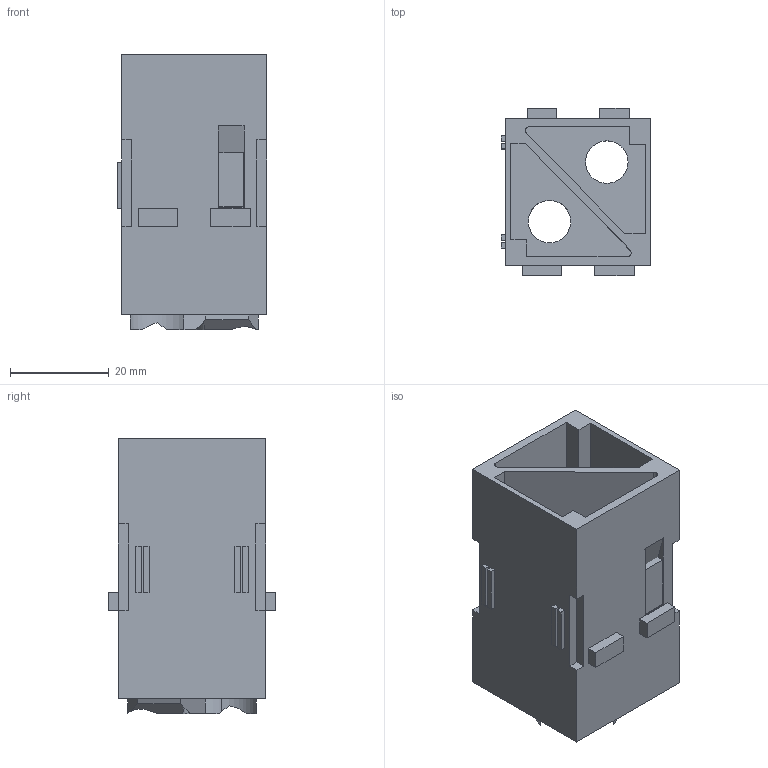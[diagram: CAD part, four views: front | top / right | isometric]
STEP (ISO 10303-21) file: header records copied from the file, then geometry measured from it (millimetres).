
FILE_DESCRIPTION (( 'STEP AP214' ), '1' );
FILE_NAME ('CX-02GM.STEP', '2006-08-01T18:58:13', ( 'Mencom User' ), ( 'Mencom Corporation' ), 'SwSTEP 2.0', 'SolidWorks 2006104', '' );
FILE_SCHEMA (( 'AUTOMOTIVE_DESIGN' ));
Length unit declared in the file: inch
Products named in the file (1): CX-02GM
Bounding box: 30.29 x 34 x 55.75 mm (x, y, z)
Volume: 23903.2 mm3; surface area: 15427.9 mm2
Topology: 3 solids, 3 shells, 164 faces, 431 edges, 286 vertices
Faces by surface type: plane 148, cylinder 16
Entity records: 6377 total; most frequent: CARTESIAN_POINT 903, ORIENTED_EDGE 862, DIRECTION 792, EDGE_CURVE 431, VECTOR 386, LINE 386, VERTEX_POINT 286, AXIS2_PLACEMENT_3D 203
